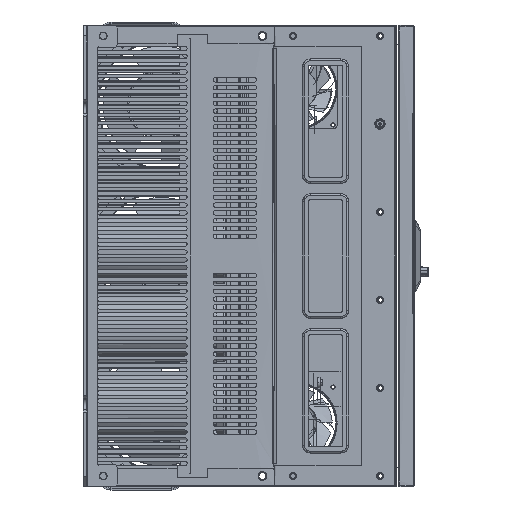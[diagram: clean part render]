
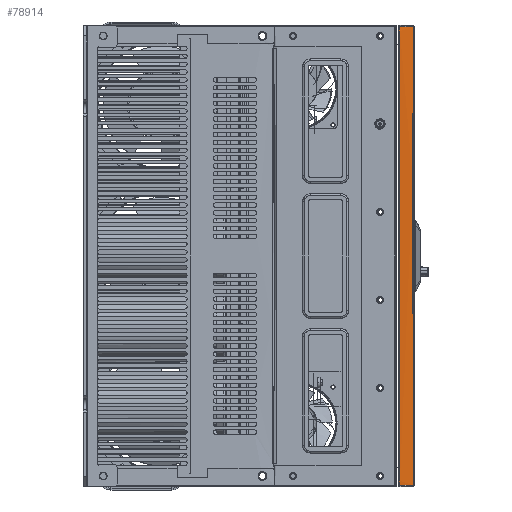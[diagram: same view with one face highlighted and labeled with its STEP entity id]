
A CAD part, front view. The second image highlights one B-rep face of the part: STEP entity #78914.
In plain terms, the highlighted planar face has unit normal (0, -1, 0).
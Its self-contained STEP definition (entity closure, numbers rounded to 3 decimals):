
#2045 = CARTESIAN_POINT ( 'NONE',  ( 183.45, -427.5, -263.3 ) ) ;
#4127 = ORIENTED_EDGE ( 'NONE', *, *, #121612, .F. ) ;
#5352 = CARTESIAN_POINT ( 'NONE',  ( 184.05, -427.5, -258.3 ) ) ;
#8591 = CARTESIAN_POINT ( 'NONE',  ( 183.45, -427.5, -261.633 ) ) ;
#8605 = CARTESIAN_POINT ( 'NONE',  ( 184.05, -427.5, -258.3 ) ) ;
#10760 = CARTESIAN_POINT ( 'NONE',  ( 184.05, -427.5, 258.3 ) ) ;
#11631 = CARTESIAN_POINT ( 'NONE',  ( 198.65, -427.5, 263.3 ) ) ;
#12893 = ORIENTED_EDGE ( 'NONE', *, *, #40873, .T. ) ;
#13280 = CARTESIAN_POINT ( 'NONE',  ( 198.65, -427.5, -87.767 ) ) ;
#13340 = B_SPLINE_CURVE_WITH_KNOTS ( 'NONE', 3,
 ( #5352, #121440, #161823, #108522 ),
 .UNSPECIFIED., .F., .F.,
 ( 4, 4 ),
 ( 0., 1. ),
 .UNSPECIFIED. ) ;
#13658 = B_SPLINE_CURVE_WITH_KNOTS ( 'NONE', 3,
 ( #152567, #128439, #61394, #75117 ),
 .UNSPECIFIED., .F., .F.,
 ( 4, 4 ),
 ( 0., 1. ),
 .UNSPECIFIED. ) ;
#14910 = CARTESIAN_POINT ( 'NONE',  ( 198.65, -427.5, -263.3 ) ) ;
#15532 = CARTESIAN_POINT ( 'NONE',  ( 183.256, -427.48, -258.649 ) ) ;
#18004 = CARTESIAN_POINT ( 'NONE',  ( 183.45, -427.5, 263.3 ) ) ;
#23871 = CARTESIAN_POINT ( 'NONE',  ( 183.694, -427.15, 263.463 ) ) ;
#30801 = EDGE_CURVE ( 'NONE', #134206, #123162, #163209, .T. ) ;
#30874 = CARTESIAN_POINT ( 'NONE',  ( 183.45, -427.5, 259.967 ) ) ;
#32789 = CARTESIAN_POINT ( 'NONE',  ( 184.05, -427.5, 258.3 ) ) ;
#34896 = FACE_OUTER_BOUND ( 'NONE', #141341, .T. ) ;
#37786 = ORIENTED_EDGE ( 'NONE', *, *, #150466, .T. ) ;
#40873 = EDGE_CURVE ( 'NONE', #72379, #44954, #122947, .T. ) ;
#42776 = B_SPLINE_CURVE_WITH_KNOTS ( 'NONE', 3,
 ( #11631, #119074, #13280, #53658 ),
 .UNSPECIFIED., .F., .F.,
 ( 4, 4 ),
 ( 0., 1. ),
 .UNSPECIFIED. ) ;
#44700 = CARTESIAN_POINT ( 'NONE',  ( 183.694, -427.15, -263.463 ) ) ;
#44954 = VERTEX_POINT ( 'NONE', #167587 ) ;
#49482 = DIRECTION ( 'NONE',  ( 0., 0., -1. ) ) ;
#50237 = CARTESIAN_POINT ( 'NONE',  ( 184.05, -427.5, 86.1 ) ) ;
#51757 = EDGE_CURVE ( 'NONE', #44954, #159556, #148030, .T. ) ;
#53658 = CARTESIAN_POINT ( 'NONE',  ( 198.65, -427.5, -263.3 ) ) ;
#59952 = CARTESIAN_POINT ( 'NONE',  ( 184.05, -427.5, 258.3 ) ) ;
#60404 = VERTEX_POINT ( 'NONE', #98023 ) ;
#61394 = CARTESIAN_POINT ( 'NONE',  ( 193.583, -427.5, 263.3 ) ) ;
#62521 = EDGE_CURVE ( 'NONE', #153364, #134206, #13340, .T. ) ;
#64021 = CARTESIAN_POINT ( 'NONE',  ( 184.05, -427.5, -258.3 ) ) ;
#67387 = CARTESIAN_POINT ( 'NONE',  ( 193.583, -427.5, -263.3 ) ) ;
#72379 = VERTEX_POINT ( 'NONE', #23871 ) ;
#75117 = CARTESIAN_POINT ( 'NONE',  ( 198.65, -427.5, 263.3 ) ) ;
#75286 = CARTESIAN_POINT ( 'NONE',  ( 200.35, -427.5, 263.3 ) ) ;
#77589 = B_SPLINE_CURVE_WITH_KNOTS ( 'NONE', 3,
 ( #14910, #67387, #119856, #2045 ),
 .UNSPECIFIED., .F., .F.,
 ( 4, 4 ),
 ( 0., 1. ),
 .UNSPECIFIED. ) ;
#78914 = ADVANCED_FACE ( 'NONE', ( #34896 ), #113184, .T. ) ;
#83319 = CARTESIAN_POINT ( 'NONE',  ( 183.45, -427.5, 261.633 ) ) ;
#97912 = ORIENTED_EDGE ( 'NONE', *, *, #30801, .T. ) ;
#98023 = CARTESIAN_POINT ( 'NONE',  ( 199.504, -426.737, 263.405 ) ) ;
#108522 = CARTESIAN_POINT ( 'NONE',  ( 183.45, -427.5, -258.3 ) ) ;
#111763 = CARTESIAN_POINT ( 'NONE',  ( 183.45, -427.5, -263.3 ) ) ;
#113184 = PLANE ( 'NONE',  #122861 ) ;
#119074 = CARTESIAN_POINT ( 'NONE',  ( 198.65, -427.5, 87.767 ) ) ;
#119856 = CARTESIAN_POINT ( 'NONE',  ( 188.517, -427.5, -263.3 ) ) ;
#120009 = EDGE_CURVE ( 'NONE', #145341, #123162, #77589, .T. ) ;
#121440 = CARTESIAN_POINT ( 'NONE',  ( 183.85, -427.5, -258.3 ) ) ;
#121612 = EDGE_CURVE ( 'NONE', #72379, #60404, #13658, .T. ) ;
#122861 = AXIS2_PLACEMENT_3D ( 'NONE', #75286, #127775, #49482 ) ;
#122947 = B_SPLINE_CURVE_WITH_KNOTS ( 'NONE', 3,
 ( #18004, #83319, #30874, #162475 ),
 .UNSPECIFIED., .F., .F.,
 ( 4, 4 ),
 ( 0., 1. ),
 .UNSPECIFIED. ) ;
#123162 = VERTEX_POINT ( 'NONE', #44700 ) ;
#127775 = DIRECTION ( 'NONE',  ( 0., -1., 0. ) ) ;
#128203 = CARTESIAN_POINT ( 'NONE',  ( 199.504, -426.737, -263.405 ) ) ;
#128439 = CARTESIAN_POINT ( 'NONE',  ( 188.517, -427.5, 263.3 ) ) ;
#129707 = B_SPLINE_CURVE_WITH_KNOTS ( 'NONE', 3,
 ( #10760, #50237, #141456, #64021 ),
 .UNSPECIFIED., .F., .F.,
 ( 4, 4 ),
 ( 0., 1. ),
 .UNSPECIFIED. ) ;
#132452 = ORIENTED_EDGE ( 'NONE', *, *, #62521, .T. ) ;
#134206 = VERTEX_POINT ( 'NONE', #15532 ) ;
#141341 = EDGE_LOOP ( 'NONE', ( #168353, #167927, #4127, #12893, #149995, #37786, #132452, #97912 ) ) ;
#141456 = CARTESIAN_POINT ( 'NONE',  ( 184.05, -427.5, -86.1 ) ) ;
#145341 = VERTEX_POINT ( 'NONE', #128203 ) ;
#147372 = EDGE_CURVE ( 'NONE', #60404, #145341, #42776, .T. ) ;
#147917 = CARTESIAN_POINT ( 'NONE',  ( 183.65, -427.5, 258.3 ) ) ;
#148030 = B_SPLINE_CURVE_WITH_KNOTS ( 'NONE', 3,
 ( #159957, #147917, #160821, #59952 ),
 .UNSPECIFIED., .F., .F.,
 ( 4, 4 ),
 ( 0., 1. ),
 .UNSPECIFIED. ) ;
#149995 = ORIENTED_EDGE ( 'NONE', *, *, #51757, .T. ) ;
#150466 = EDGE_CURVE ( 'NONE', #159556, #153364, #129707, .T. ) ;
#152567 = CARTESIAN_POINT ( 'NONE',  ( 183.45, -427.5, 263.3 ) ) ;
#153364 = VERTEX_POINT ( 'NONE', #8605 ) ;
#153858 = CARTESIAN_POINT ( 'NONE',  ( 183.45, -427.5, -259.967 ) ) ;
#159121 = CARTESIAN_POINT ( 'NONE',  ( 183.45, -427.5, -258.3 ) ) ;
#159556 = VERTEX_POINT ( 'NONE', #32789 ) ;
#159957 = CARTESIAN_POINT ( 'NONE',  ( 183.45, -427.5, 258.3 ) ) ;
#160821 = CARTESIAN_POINT ( 'NONE',  ( 183.85, -427.5, 258.3 ) ) ;
#161823 = CARTESIAN_POINT ( 'NONE',  ( 183.65, -427.5, -258.3 ) ) ;
#162475 = CARTESIAN_POINT ( 'NONE',  ( 183.45, -427.5, 258.3 ) ) ;
#163209 = B_SPLINE_CURVE_WITH_KNOTS ( 'NONE', 3,
 ( #159121, #153858, #8591, #111763 ),
 .UNSPECIFIED., .F., .F.,
 ( 4, 4 ),
 ( 0., 1. ),
 .UNSPECIFIED. ) ;
#167587 = CARTESIAN_POINT ( 'NONE',  ( 183.256, -427.48, 258.649 ) ) ;
#167927 = ORIENTED_EDGE ( 'NONE', *, *, #147372, .F. ) ;
#168353 = ORIENTED_EDGE ( 'NONE', *, *, #120009, .F. ) ;
